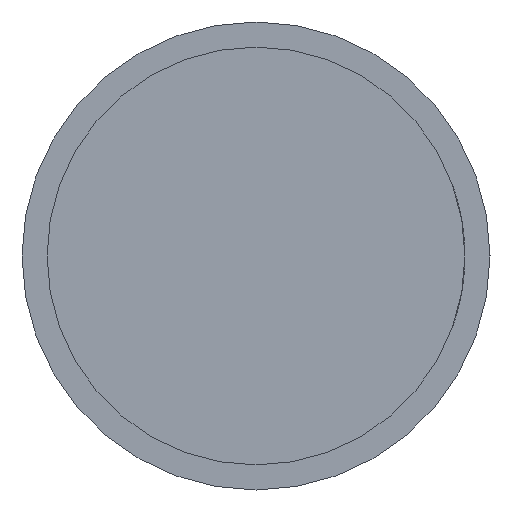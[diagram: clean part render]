
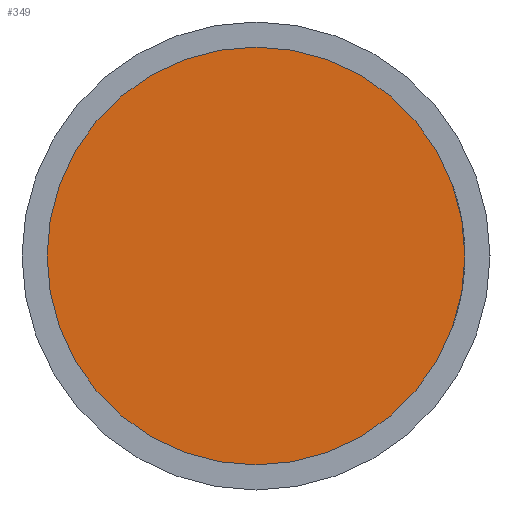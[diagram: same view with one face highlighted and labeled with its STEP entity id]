
A CAD part, left-side view. The second image highlights one B-rep face of the part: STEP entity #349.
In plain terms, the highlighted planar face has unit normal (-1, 0, 0).
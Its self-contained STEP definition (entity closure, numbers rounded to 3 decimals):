
#37=PLANE('',#386);
#55=FACE_OUTER_BOUND('',#80,.T.);
#80=EDGE_LOOP('',(#288));
#114=CIRCLE('',#387,12.5);
#188=VERTEX_POINT('',#651);
#230=EDGE_CURVE('',#188,#188,#114,.T.);
#288=ORIENTED_EDGE('',*,*,#230,.F.);
#349=ADVANCED_FACE('',(#55),#37,.T.);
#386=AXIS2_PLACEMENT_3D('',#650,#461,#462);
#387=AXIS2_PLACEMENT_3D('',#652,#463,#464);
#461=DIRECTION('center_axis',(-1.,0.,0.));
#462=DIRECTION('ref_axis',(0.,0.,1.));
#463=DIRECTION('center_axis',(1.,0.,0.));
#464=DIRECTION('ref_axis',(0.,1.,0.));
#650=CARTESIAN_POINT('Origin',(-37.443,6.25,0.));
#651=CARTESIAN_POINT('',(-37.443,12.5,0.));
#652=CARTESIAN_POINT('Origin',(-37.443,0.,0.));
